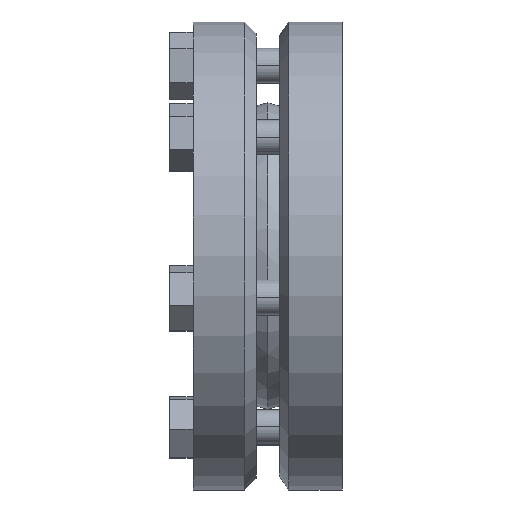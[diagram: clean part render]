
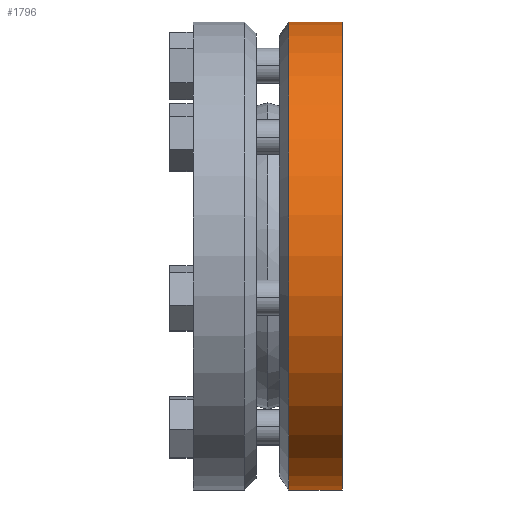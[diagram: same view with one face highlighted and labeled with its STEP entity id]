
A CAD part, top view. The second image highlights one B-rep face of the part: STEP entity #1796.
In plain terms, the highlighted cylindrical face has radius 40 mm (diameter 80 mm), a partial arc.
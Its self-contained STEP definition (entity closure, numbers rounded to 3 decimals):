
#650=CARTESIAN_POINT('',(13.572,0.,0.));
#651=DIRECTION('',(1.,0.,0.));
#652=DIRECTION('',(0.,1.,0.));
#653=AXIS2_PLACEMENT_3D('',#650,#651,#652);
#655=DIRECTION('',(1.,0.,0.));
#656=VECTOR('',#655,9.178);
#657=CARTESIAN_POINT('',(13.572,40.,0.));
#658=LINE('',#657,#656);
#659=DIRECTION('',(1.,0.,0.));
#660=VECTOR('',#659,9.178);
#661=CARTESIAN_POINT('',(13.572,-40.,0.));
#662=LINE('',#661,#660);
#663=CARTESIAN_POINT('',(22.75,0.,0.));
#664=DIRECTION('',(-1.,0.,0.));
#665=DIRECTION('',(0.,-1.,0.));
#666=AXIS2_PLACEMENT_3D('',#663,#664,#665);
#1281=CARTESIAN_POINT('',(13.572,40.,0.));
#1282=VERTEX_POINT('',#1281);
#1283=CARTESIAN_POINT('',(13.572,-40.,0.));
#1284=VERTEX_POINT('',#1283);
#1285=CARTESIAN_POINT('',(22.75,40.,0.));
#1286=VERTEX_POINT('',#1285);
#1287=CARTESIAN_POINT('',(22.75,-40.,0.));
#1288=VERTEX_POINT('',#1287);
#1782=CARTESIAN_POINT('',(24.025,0.,0.));
#1783=DIRECTION('',(-1.,0.,0.));
#1784=DIRECTION('',(0.,1.,0.));
#1785=AXIS2_PLACEMENT_3D('',#1782,#1783,#1784);
#1786=CYLINDRICAL_SURFACE('',#1785,40.);
#1788=ORIENTED_EDGE('',*,*,#1787,.T.);
#1790=ORIENTED_EDGE('',*,*,#1789,.F.);
#1792=ORIENTED_EDGE('',*,*,#1791,.F.);
#1793=ORIENTED_EDGE('',*,*,#1775,.F.);
#1794=EDGE_LOOP('',(#1788,#1790,#1792,#1793));
#1795=FACE_OUTER_BOUND('',#1794,.F.);
#1796=ADVANCED_FACE('',(#1795),#1786,.T.);
#654=CIRCLE('',#653,40.);
#667=CIRCLE('',#666,40.);
#1775=EDGE_CURVE('',#1282,#1284,#654,.T.);
#1787=EDGE_CURVE('',#1282,#1286,#658,.T.);
#1789=EDGE_CURVE('',#1288,#1286,#667,.T.);
#1791=EDGE_CURVE('',#1284,#1288,#662,.T.);
